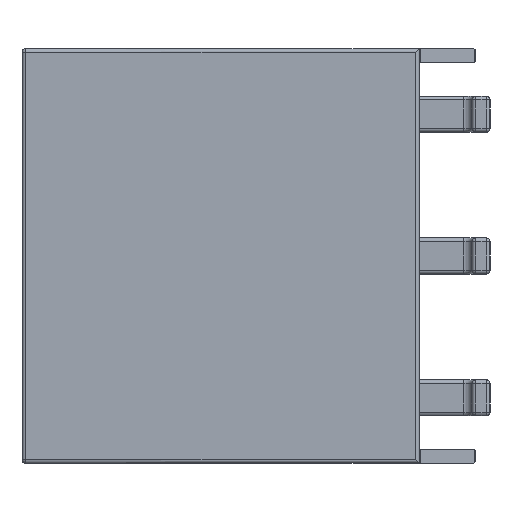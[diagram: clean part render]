
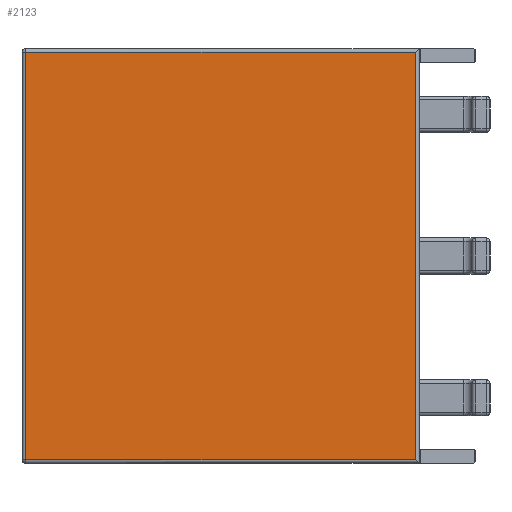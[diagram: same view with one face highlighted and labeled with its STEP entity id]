
A CAD part, left-side view. The second image highlights one B-rep face of the part: STEP entity #2123.
In plain terms, the highlighted planar face has unit normal (-1, 0, 0).
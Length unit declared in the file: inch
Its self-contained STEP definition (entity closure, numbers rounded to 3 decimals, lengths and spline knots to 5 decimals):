
#1609 = EDGE_CURVE ( 'NONE', #2101, #2100, #6976, .T. ) ;
#1612 = ORIENTED_EDGE ( 'NONE', *, *, #1609, .T. ) ;
#2077 = EDGE_LOOP ( 'NONE', ( #2105, #2089, #2094, #1612 ) ) ;
#2089 = ORIENTED_EDGE ( 'NONE', *, *, #2109, .T. ) ;
#2091 = VERTEX_POINT ( 'NONE', #7893 ) ;
#2093 = VERTEX_POINT ( 'NONE', #7892 ) ;
#2094 = ORIENTED_EDGE ( 'NONE', *, *, #2098, .T. ) ;
#2098 = EDGE_CURVE ( 'NONE', #2093, #2101, #7884, .T. ) ;
#2100 = VERTEX_POINT ( 'NONE', #7880 ) ;
#2101 = VERTEX_POINT ( 'NONE', #7879 ) ;
#2103 = EDGE_CURVE ( 'NONE', #2100, #2091, #7939, .T. ) ;
#2105 = ORIENTED_EDGE ( 'NONE', *, *, #2103, .T. ) ;
#2109 = EDGE_CURVE ( 'NONE', #2091, #2093, #7934, .T. ) ;
#2123 = ADVANCED_FACE ( 'NONE', ( #7913 ), #7910, .T. ) ;
#6972 = DIRECTION ( 'NONE',  ( 0., 1., 0. ) ) ;
#6973 = VECTOR ( 'NONE', #6972, 39.37008 ) ;
#6974 = CARTESIAN_POINT ( 'NONE',  ( -0.3002, 0., 0.11319 ) ) ;
#6976 = LINE ( 'NONE', #6974, #6973 ) ;
#7879 = CARTESIAN_POINT ( 'NONE',  ( -0.3002, 0.00197, 0.11319 ) ) ;
#7880 = CARTESIAN_POINT ( 'NONE',  ( -0.30017, 0.2185, 0.11316 ) ) ;
#7881 = DIRECTION ( 'NONE',  ( 0., 0., 1. ) ) ;
#7882 = VECTOR ( 'NONE', #7881, 39.37008 ) ;
#7883 = CARTESIAN_POINT ( 'NONE',  ( -0.3002, 0.00197, 0.11516 ) ) ;
#7884 = LINE ( 'NONE', #7883, #7882 ) ;
#7892 = CARTESIAN_POINT ( 'NONE',  ( -0.3002, 0.00197, -0.11319 ) ) ;
#7893 = CARTESIAN_POINT ( 'NONE',  ( -0.30017, 0.2185, -0.11316 ) ) ;
#7909 = DIRECTION ( 'NONE',  ( -1., 0., 0. ) ) ;
#7910 = PLANE ( 'NONE',  #7912 ) ;
#7911 = CARTESIAN_POINT ( 'NONE',  ( -0.3002, 0., 0.11516 ) ) ;
#7912 = AXIS2_PLACEMENT_3D ( 'NONE', #7911, #7909, #7973 ) ;
#7913 = FACE_OUTER_BOUND ( 'NONE', #2077, .T. ) ;
#7926 = DIRECTION ( 'NONE',  ( 0., -1., 0. ) ) ;
#7927 = VECTOR ( 'NONE', #7926, 39.37008 ) ;
#7928 = CARTESIAN_POINT ( 'NONE',  ( -0.3002, 0.00003, -0.11319 ) ) ;
#7934 = LINE ( 'NONE', #7928, #7927 ) ;
#7936 = DIRECTION ( 'NONE',  ( 0., 0., -1. ) ) ;
#7937 = VECTOR ( 'NONE', #7936, 39.37008 ) ;
#7938 = CARTESIAN_POINT ( 'NONE',  ( -0.30017, 0.2185, -0.11513 ) ) ;
#7939 = LINE ( 'NONE', #7938, #7937 ) ;
#7973 = DIRECTION ( 'NONE',  ( 0., -1., 0. ) ) ;
